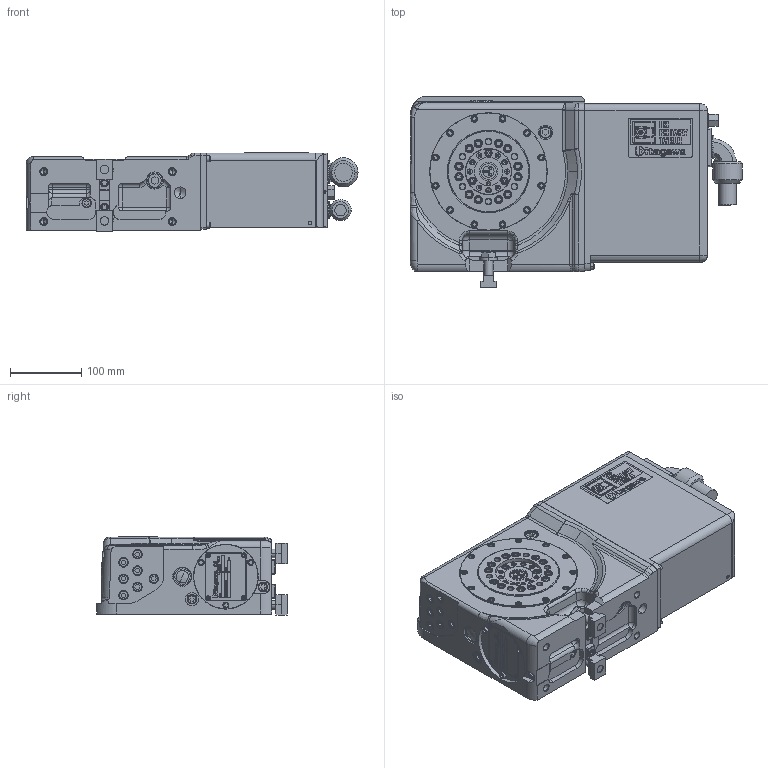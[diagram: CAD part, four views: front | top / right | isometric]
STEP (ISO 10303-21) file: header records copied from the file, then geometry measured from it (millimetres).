
FILE_DESCRIPTION (( 'STEP AP214' ), '1' );
FILE_NAME ('【掲載用】CKR160付加軸右勝手.STEP', '2019-10-10T05:08:25', ( '' ), ( '' ), 'SwSTEP 2.0', 'SolidWorks 2017', '' );
FILE_SCHEMA (( 'AUTOMOTIVE_DESIGN' ));
Length unit declared in the file: millimetre
Products named in the file (23): クランプキミタテ(61E473251)CK160D1; テーブル(61E8145702)CKR160R00; Tスロットナット１４１２; ベース(61E1132036)CKR160R00; B パーカ　M12×40; ワッシャ １２(61M4266320)VQ100; 【掲載用】CKR160付加軸右勝手; CKR160RFホンタイ; キタガワシール; ケーブルN29ZS1650; ケーブルN29ZS2554; SMC KQ2E06-02; モータケースカバー(61E8189670)CKR160RF03; モータケース(61E2721840)CKR160RF05(61E269085); ガイドブロック(61M4198752); CKR160R00僋儈僞僥(61E5011490); CKR160 チェックバルブ AKB01A-01S-×435; オイルゲージ 257; 僣僶僣僉僾儔僌GFO M20x1.5; 僱乕儉僾儗乕僩丂MB160丂怴儘僑; CKR160　カバー; 僔儕儞僟RJ(61E2666967)CKR160R00; ベアリングプッシュプレート(61E8145801)CKR160R00
Assembly tree (24 placements, depth 4):
  【掲載用】CKR160付加軸右勝手
    CKR160RFホンタイ
      CKR160R00僋儈僞僥(61E5011490)
        ベース(61E1132036)CKR160R00
        テーブル(61E8145702)CKR160R00
        ベアリングプッシュプレート(61E8145801)CKR160R00
        僔儕儞僟RJ(61E2666967)CKR160R00
        CKR160　カバー
        僱乕儉僾儗乕僩丂MB160丂怴儘僑
        僣僶僣僉僾儔僌GFO M20x1.5
        オイルゲージ 257
        CKR160 チェックバルブ AKB01A-01S-×435
      ガイドブロック(61M4198752)  x2
      モータケース(61E2721840)CKR160RF05(61E269085)
      モータケースカバー(61E8189670)CKR160RF03
      SMC KQ2E06-02
      ケーブルN29ZS2554
      ケーブルN29ZS1650
      キタガワシール
    クランプキミタテ(61E473251)CK160D1  x2
      ワッシャ １２(61M4266320)VQ100
      B パーカ　M12×40
      Tスロットナット１４１２
Bounding box: 465.4 x 267 x 109.35 mm (x, y, z)
Volume: 9530201.7 mm3; surface area: 737515.4 mm2
Topology: 24 solids, 24 shells, 4302 faces, 10956 edges, 7105 vertices
Faces by surface type: plane 2949, cylinder 860, cone 361, bspline 85, torus 31, sphere 16
Entity records: 159669 total; most frequent: CARTESIAN_POINT 33959, ORIENTED_EDGE 21446, DIRECTION 20892, EDGE_CURVE 10723, LINE 8402, VECTOR 8402, VERTEX_POINT 7003, AXIS2_PLACEMENT_3D 6245
